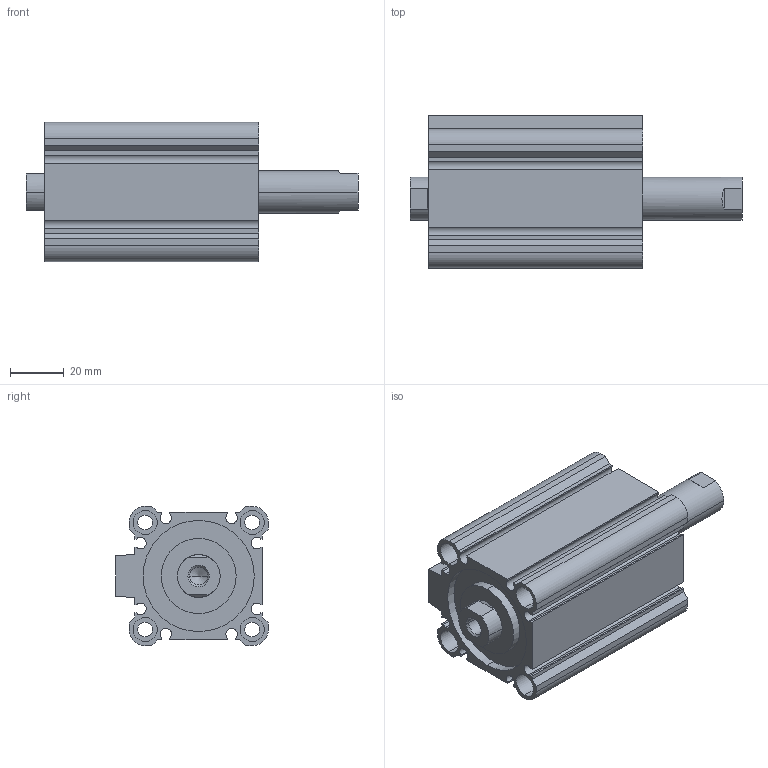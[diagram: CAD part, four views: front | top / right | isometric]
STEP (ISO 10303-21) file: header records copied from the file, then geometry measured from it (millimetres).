
FILE_DESCRIPTION (( 'STEP AP203' ), '1' );
FILE_NAME ('CCMB40-30F-P.STEP', '2020-08-05T11:24:19', ( '' ), ( '' ), 'SwSTEP 2.0', 'SolidWorks 2019', '' );
FILE_SCHEMA (( 'CONFIG_CONTROL_DESIGN' ));
Length unit declared in the file: millimetre
Products named in the file (1): CCMB40-30F-P
Bounding box: 124 x 57 x 52 mm (x, y, z)
Volume: 150961 mm3; surface area: 56970.9 mm2
Topology: 2 solids, 2 shells, 164 faces, 414 edges, 270 vertices
Faces by surface type: plane 78, cylinder 74, cone 12
Entity records: 5029 total; most frequent: DIRECTION 896, CARTESIAN_POINT 857, ORIENTED_EDGE 820, EDGE_CURVE 410, AXIS2_PLACEMENT_3D 325, VERTEX_POINT 270, LINE 246, VECTOR 246
